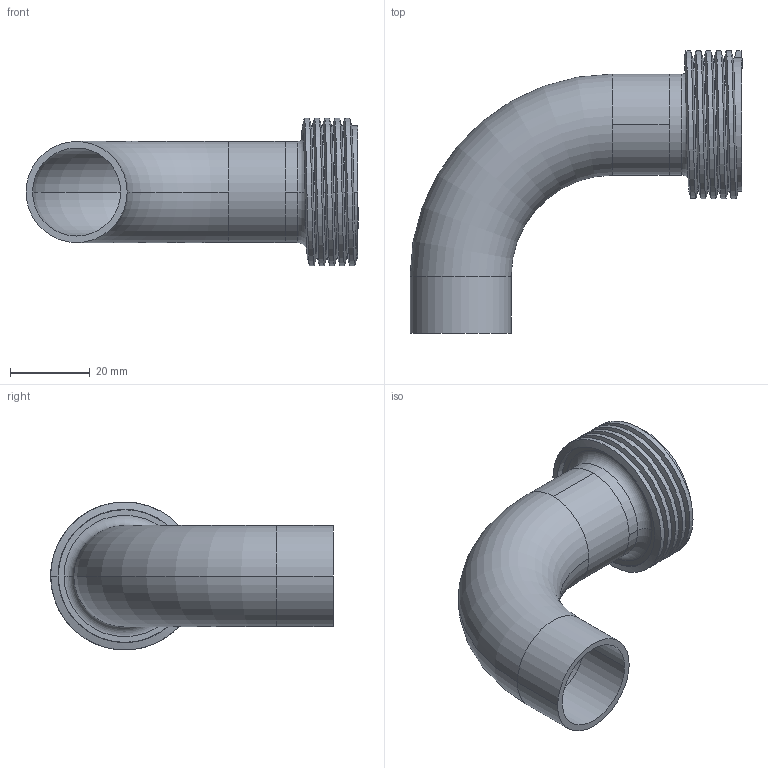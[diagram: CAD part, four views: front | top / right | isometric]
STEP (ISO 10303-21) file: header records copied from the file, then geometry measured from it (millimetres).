
FILE_DESCRIPTION (( 'STEP AP203' ), '1' );
FILE_NAME ('E2T1.0.STEP', '2018-05-02T13:28:43', ( 'vneprd' ), ( 'Microsoft' ), 'SwSTEP 2.0', 'SolidWorks 2014', '' );
FILE_SCHEMA (( 'CONFIG_CONTROL_DESIGN' ));
Length unit declared in the file: inch
Products named in the file (3): E2S1.0; 15TR1.0; E2T1.0
Assembly tree (2 placements, depth 2):
  E2T1.0
    E2S1.0
    15TR1.0
Bounding box: 83.36 x 70.96 x 37.15 mm (x, y, z)
Volume: 18946.6 mm3; surface area: 21157.3 mm2
Topology: 3 solids, 3 shells, 34 faces, 73 edges, 46 vertices
Faces by surface type: cylinder 14, plane 8, torus 6, bspline 4, cone 2
Entity records: 2446 total; most frequent: CARTESIAN_POINT 1384, DIRECTION 179, ORIENTED_EDGE 146, AXIS2_PLACEMENT_3D 77, EDGE_CURVE 73, VERTEX_POINT 46, CIRCLE 42, EDGE_LOOP 39
